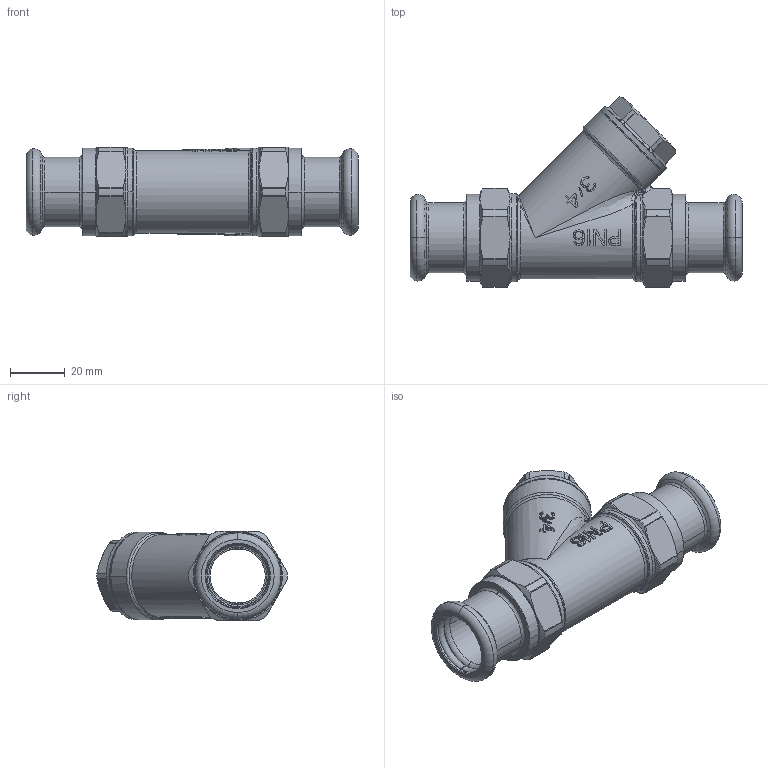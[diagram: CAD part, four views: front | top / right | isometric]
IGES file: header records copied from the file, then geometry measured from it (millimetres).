
Global section: file name: No Iges File Name specified; native system: AutoDesk Inventor R12.0; preprocessor: AutoDesk Inventor Iges Exporter R12.0; date: 20120203.144041; units: millimetre
Bounding box: 120.8 x 69.27 x 32.5 mm (x, y, z)
Volume: 44700.2 mm3; surface area: 30901.2 mm2
Topology: 1 solids, 2 shells, 700 faces, 1833 edges, 1164 vertices
Faces by surface type: bspline 258, plane 164, cylinder 97, revolution 96, cone 50, torus 25, sphere 10
